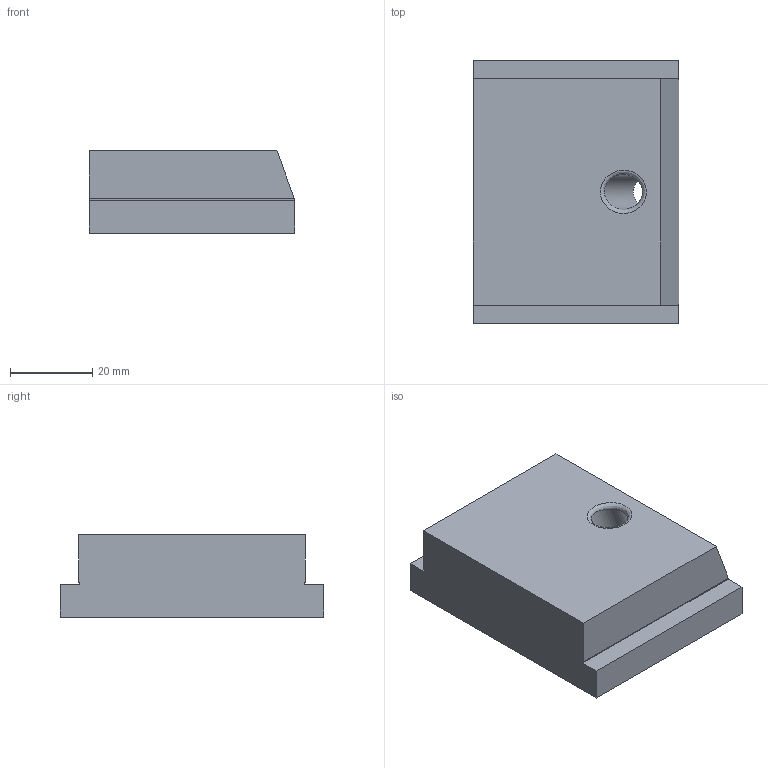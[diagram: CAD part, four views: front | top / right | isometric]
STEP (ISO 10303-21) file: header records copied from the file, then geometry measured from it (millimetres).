
FILE_DESCRIPTION (( 'STEP AP214' ), '1' );
FILE_NAME ('Schieber_-_H20 B55 L50.step', '2024-01-15T11:27:43', ( '' ), ( '' ), 'SwSTEP 2.0', 'SolidWorks 2020', '' );
FILE_SCHEMA (( 'AUTOMOTIVE_DESIGN' ));
Length unit declared in the file: millimetre
Products named in the file (1): Schieber_-_H20 B55 L50
Bounding box: 50 x 64 x 20 mm (x, y, z)
Volume: 55927.3 mm3; surface area: 10988 mm2
Topology: 1 solids, 1 shells, 209 faces, 561 edges, 373 vertices
Faces by surface type: plane 112, bspline 96, cylinder 1
Full cylindrical faces by diameter (mm): 8.5 x1
Entity records: 11587 total; most frequent: CARTESIAN_POINT 6988, ORIENTED_EDGE 1118, DIRECTION 594, EDGE_CURVE 559, VERTEX_POINT 373, LINE 366, VECTOR 366, EDGE_LOOP 232
